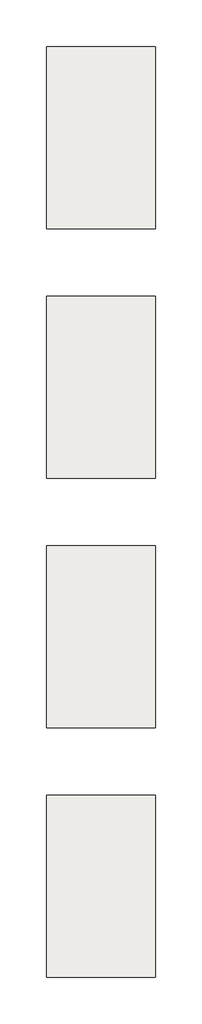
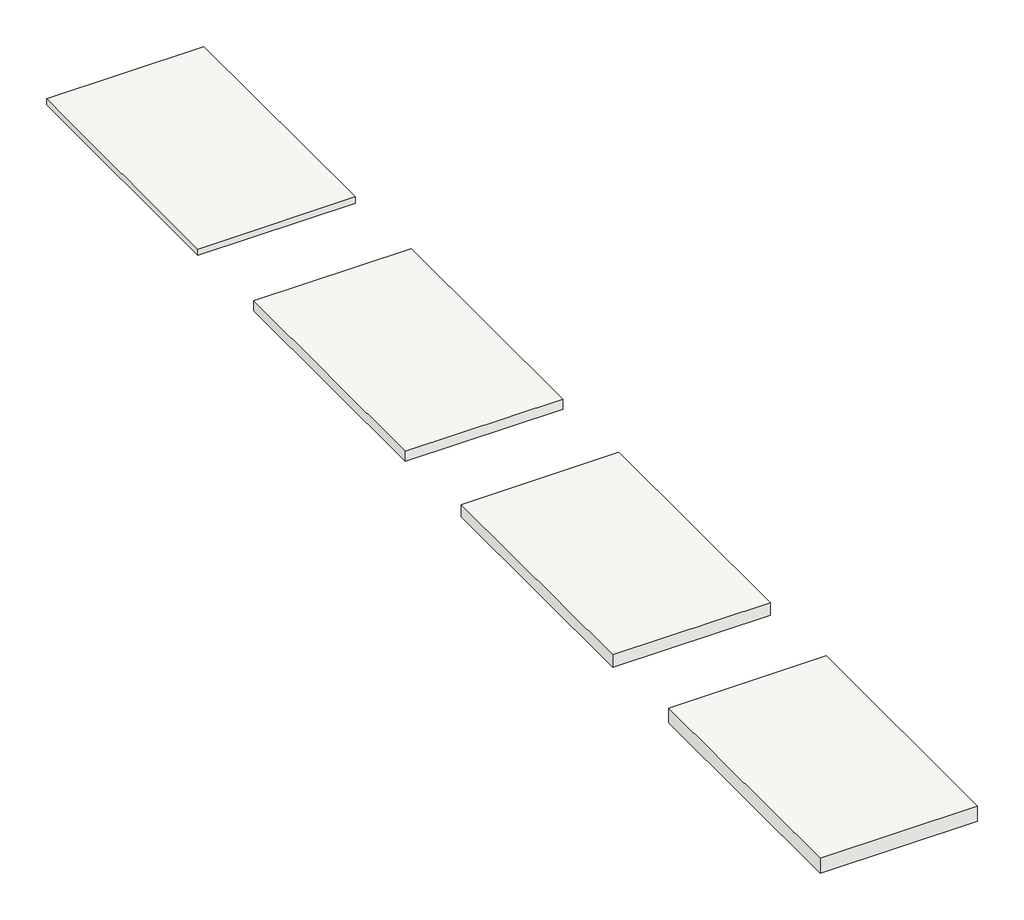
# One storey: 4 roofs.
"""IFC4 building model written with IfcOpenShell, lengths in millimetres."""

from ifc_helpers import new_model, si_unit, origin, origin_with_axes, place, context, project, spatial, polyline, outline, extrude, element, save

model = new_model("IFC4")

# Units and contexts
model_context = context("Model", 3, world=origin())
ifc_project = project(units=[si_unit("LENGTHUNIT", "METRE", prefix="MILLI")], contexts=[model_context])

# Site, building, storey
site = spatial("IfcSite", under=ifc_project)
building = spatial("IfcBuilding", under=site)
storey = spatial("IfcBuildingStorey", under=building, Name="Референтни ниво", Elevation=0.0)

# Roofs
placement = place(None, origin())
element("IfcRoof", 1, ObjectType="Knauf Insulation - SmartRoof Top - 50 mm - 50 x 2000 x 1200 mm", at=placement, inside=storey, context=model_context, shape_type="SweptSolid", body=[
    extrude(outline(polyline([(-227600.0, 183272.205474), (-226400.0, 183272.205474), (-226400.0, 181272.205474), (-227600.0, 181272.205474), (-227600.0, 183272.205474)])), origin_with_axes(), (0.0, 0.0, 1.0), 50.0),
])
element("IfcRoof", 2, ObjectType="Knauf Insulation - SmartRoof Top - 80 mm - 80 x 2000 x 1200 mm", at=placement, inside=storey, context=model_context, shape_type="SweptSolid", body=[
    extrude(outline(polyline([(-227600.0, 180532.205474), (-226400.0, 180532.205474), (-226400.0, 178532.205474), (-227600.0, 178532.205474), (-227600.0, 180532.205474)])), origin_with_axes(), (0.0, 0.0, 1.0), 80.0),
])
element("IfcRoof", 3, ObjectType="Knauf Insulation - SmartRoof Top - 100 mm - 100 x 2000 x 1200 mm", at=placement, inside=storey, context=model_context, shape_type="SweptSolid", body=[
    extrude(outline(polyline([(-227600.0, 177792.205474), (-226400.0, 177792.205474), (-226400.0, 175792.205474), (-227600.0, 175792.205474), (-227600.0, 177792.205474)])), origin_with_axes(), (0.0, 0.0, 1.0), 100.0),
])
element("IfcRoof", 4, ObjectType="Knauf Insulation - SmartRoof Top - 120 mm - 120 x 2000 x 1200 mm", at=placement, inside=storey, context=model_context, shape_type="SweptSolid", body=[
    extrude(outline(polyline([(-227600.0, 175052.205474), (-226400.0, 175052.205474), (-226400.0, 173052.205474), (-227600.0, 173052.205474), (-227600.0, 175052.205474)])), origin_with_axes(), (0.0, 0.0, 1.0), 120.0),
])

save(model, "model.ifc")
